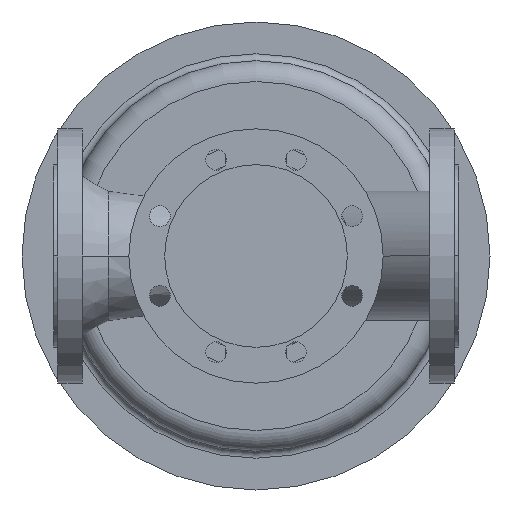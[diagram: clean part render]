
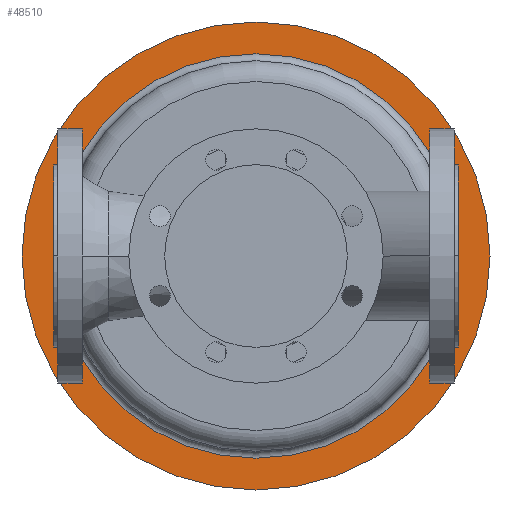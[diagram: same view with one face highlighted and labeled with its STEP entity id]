
A CAD part, front view. The second image highlights one B-rep face of the part: STEP entity #48510.
In plain terms, the highlighted planar face has unit normal (0, -1, 0).
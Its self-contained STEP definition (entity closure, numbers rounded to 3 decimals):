
#42970=CARTESIAN_POINT('',(377.5,620.5,0.));
#42980=VERTEX_POINT('',#42970);
#43140=CARTESIAN_POINT('',(-27.5,620.5,0.));
#43150=VERTEX_POINT('',#43140);
#43180=CARTESIAN_POINT('',(175.,620.5,0.));
#43190=DIRECTION('',(0.,1.,0.));
#43200=DIRECTION('',(1.,0.,0.));
#43210=AXIS2_PLACEMENT_3D('',#43180,#43190,#43200);
#43220=CIRCLE('',#43210,202.5);
#43230=EDGE_CURVE('',#42980,#43150,#43220,.T.);
#43400=CARTESIAN_POINT('',(350.,620.5,0.));
#43410=VERTEX_POINT('',#43400);
#43580=CARTESIAN_POINT('',(0.,620.5,
0.));
#43590=VERTEX_POINT('',#43580);
#43620=CARTESIAN_POINT('',(175.,620.5,0.));
#43630=DIRECTION('',(0.,1.,0.));
#43640=DIRECTION('',(1.,0.,0.));
#43650=AXIS2_PLACEMENT_3D('',#43620,#43630,#43640);
#43660=CIRCLE('',#43650,175.);
#43670=EDGE_CURVE('',#43590,#43410,#43660,.T.);
#48360=CARTESIAN_POINT('',(363.75,620.5,0.));
#48370=DIRECTION('',(0.,-1.,0.));
#48380=DIRECTION('',(-1.,0.,0.));
#48390=AXIS2_PLACEMENT_3D('',#48360,#48370,#48380);
#48400=PLANE('',#48390);
#48410=EDGE_CURVE('',#43150,#42980,#43220,.T.);
#48420=ORIENTED_EDGE('',*,*,#48410,.F.);
#48430=ORIENTED_EDGE('',*,*,#43230,.F.);
#48440=EDGE_LOOP('',(#48430,#48420));
#48450=FACE_OUTER_BOUND('',#48440,.T.);
#48460=EDGE_CURVE('',#43410,#43590,#43660,.T.);
#48470=ORIENTED_EDGE('',*,*,#48460,.T.);
#48480=ORIENTED_EDGE('',*,*,#43670,.T.);
#48490=EDGE_LOOP('',(#48480,#48470));
#48500=FACE_BOUND('',#48490,.T.);
#48510=ADVANCED_FACE('',(#48450,#48500),#48400,.T.);
